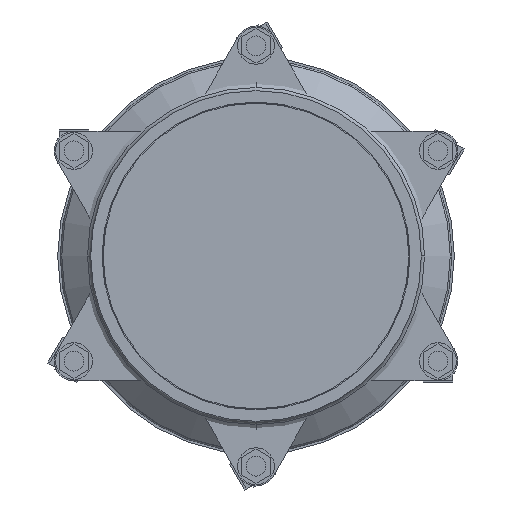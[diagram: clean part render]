
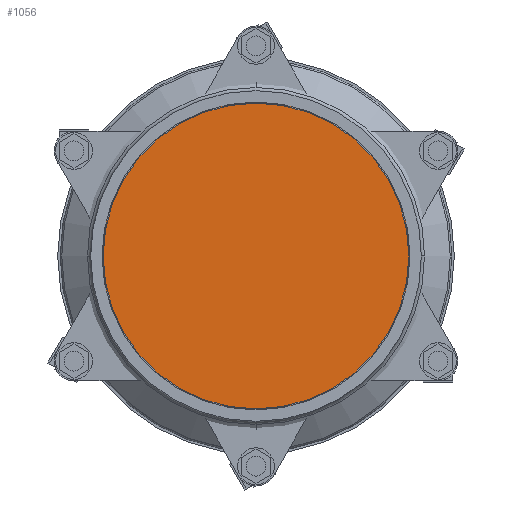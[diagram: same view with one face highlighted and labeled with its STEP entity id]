
A CAD part, left-side view. The second image highlights one B-rep face of the part: STEP entity #1056.
In plain terms, the highlighted planar face has unit normal (-1, 0, 0).
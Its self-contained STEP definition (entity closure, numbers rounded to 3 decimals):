
#1056=ADVANCED_FACE('',(#2243),#2244,.T.);
#2243=FACE_OUTER_BOUND('',#3810,.T.);
#2244=PLANE('',#3811);
#3810=EDGE_LOOP('',(#5872,#5873));
#3811=AXIS2_PLACEMENT_3D('',#5874,#5875,#5876);
#5872=ORIENTED_EDGE('',*,*,#9133,.T.);
#5873=ORIENTED_EDGE('',*,*,#9134,.T.);
#5874=CARTESIAN_POINT('',(-104.5,0.0,0.0));
#5875=DIRECTION('',(-1.0,0.0,0.));
#5876=DIRECTION('',(0.,0.0,1.0));
#9133=EDGE_CURVE('',#11019,#11020,#11021,.T.);
#9134=EDGE_CURVE('',#11020,#11019,#11022,.T.);
#11019=VERTEX_POINT('',#13449);
#11020=VERTEX_POINT('',#13450);
#11021=CIRCLE('',#13451,167.0);
#11022=CIRCLE('',#13452,167.0);
#13449=CARTESIAN_POINT('',(-104.5,0.0,-167.0));
#13450=CARTESIAN_POINT('',(-104.5,0.,167.0));
#13451=AXIS2_PLACEMENT_3D('',#15743,#15744,#15745);
#13452=AXIS2_PLACEMENT_3D('',#15746,#15747,#15748);
#15743=CARTESIAN_POINT('',(-104.5,0.0,0.0));
#15744=DIRECTION('',(-1.0,0.0,0.));
#15745=DIRECTION('',(0.,0.0,-1.0));
#15746=CARTESIAN_POINT('',(-104.5,0.0,0.0));
#15747=DIRECTION('',(-1.0,0.0,0.));
#15748=DIRECTION('',(0.,0.0,-1.0));
